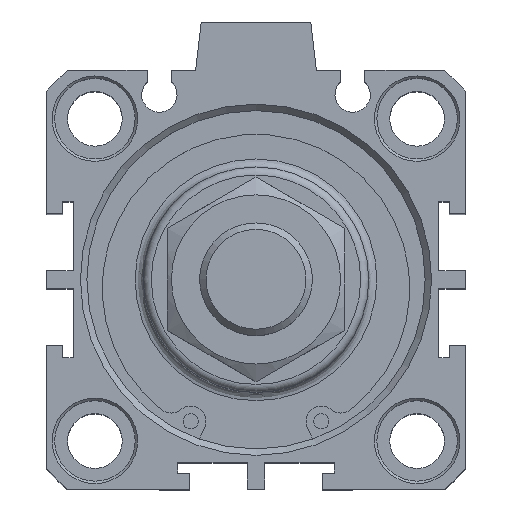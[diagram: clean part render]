
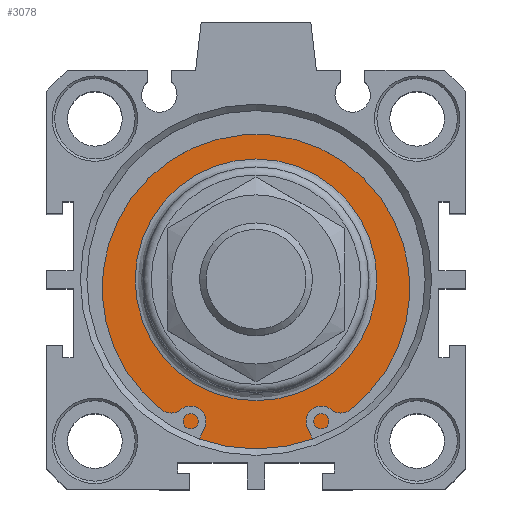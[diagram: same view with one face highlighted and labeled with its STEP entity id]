
A CAD part, top view. The second image highlights one B-rep face of the part: STEP entity #3078.
In plain terms, the highlighted planar face has unit normal (0, 0, 1).
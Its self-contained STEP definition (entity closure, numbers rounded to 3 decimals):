
#3027=CARTESIAN_POINT('',(-1.555,16.077,52.4));
#3028=VERTEX_POINT('',#3027);
#3029=CARTESIAN_POINT('',(-1.555,1.077,52.4));
#3030=DIRECTION('',(0.0,0.0,1.0));
#3031=DIRECTION('',(0.0,-1.0,0.0));
#3032=AXIS2_PLACEMENT_3D('',#3029,#3030,#3031);
#3033=CIRCLE('',#3032,15.);
#3034=EDGE_CURVE('',#3028,#3028,#3033,.T.);
#3059=CARTESIAN_POINT('',(-1.555,18.577,52.4));
#3060=DIRECTION('',(0.0,0.0,1.0));
#3061=DIRECTION('',(1.0,0.0,0.0));
#3062=AXIS2_PLACEMENT_3D('',#3059,#3060,#3061);
#3063=PLANE('',#3062);
#3064=CARTESIAN_POINT('',(-1.555,22.077,52.4));
#3065=VERTEX_POINT('',#3064);
#3066=CARTESIAN_POINT('',(-1.555,1.077,52.4));
#3067=DIRECTION('',(0.0,0.0,-1.0));
#3068=DIRECTION('',(0.0,1.0,0.0));
#3069=AXIS2_PLACEMENT_3D('',#3066,#3067,#3068);
#3070=CIRCLE('',#3069,21.);
#3071=EDGE_CURVE('',#3065,#3065,#3070,.T.);
#3072=ORIENTED_EDGE('',*,*,#3071,.F.);
#3073=EDGE_LOOP('',(#3072));
#3074=FACE_OUTER_BOUND('',#3073,.T.);
#3075=ORIENTED_EDGE('',*,*,#3034,.F.);
#3076=EDGE_LOOP('',(#3075));
#3077=FACE_BOUND('',#3076,.T.);
#3078=ADVANCED_FACE('',(#3074,#3077),#3063,.T.);
